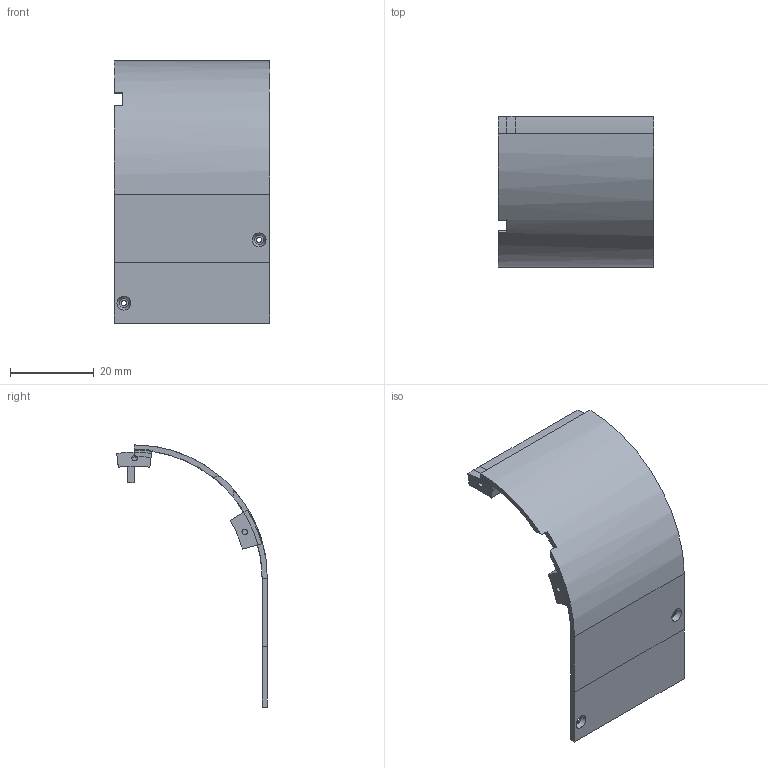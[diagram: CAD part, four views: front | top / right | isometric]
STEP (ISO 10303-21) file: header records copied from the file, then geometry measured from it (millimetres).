
FILE_DESCRIPTION(('FreeCAD Model'),'2;1');
FILE_NAME('/Users/alberto/Desktop/Dtto v2.0.1 STEP/002-1.step', '2017-05-29T11:39:00',('Author'),(''), 'Open CASCADE STEP processor 6.8','FreeCAD','Unknown');
FILE_SCHEMA(('AUTOMOTIVE_DESIGN_CC2 { 1 2 10303 214 -1 1 5 4 }'));
Length unit declared in the file: millimetre
Products named in the file (2): ASSEMBLY; Fusion170
Assembly tree (1 placements, depth 2):
  ASSEMBLY
    Fusion170
Bounding box: 37 x 35.93 x 62.5 mm (x, y, z)
Volume: 4314.1 mm3; surface area: 6915.8 mm2
Topology: 2 solids, 2 shells, 85 faces, 194 edges, 119 vertices
Faces by surface type: plane 63, cylinder 19, cone 3
Full cylindrical faces by diameter (mm): 1.3 x4
Entity records: 4937 total; most frequent: CARTESIAN_POINT 913, DIRECTION 761, LINE 396, VECTOR 396, ORIENTED_EDGE 388, PCURVE 388, DEFINITIONAL_REPRESENTATION 388, EDGE_CURVE 194
